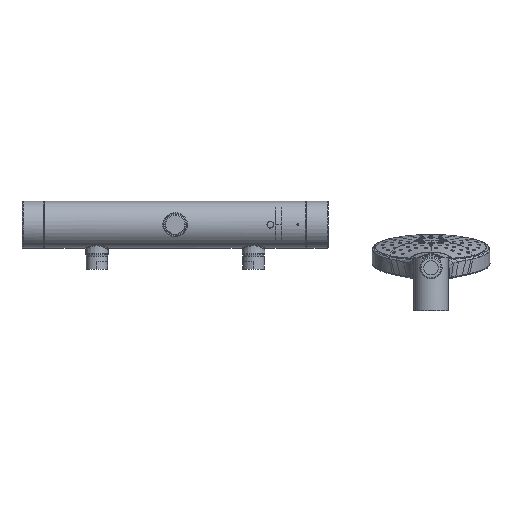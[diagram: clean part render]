
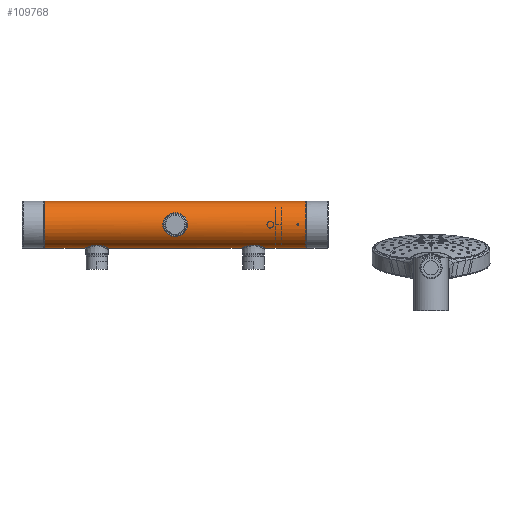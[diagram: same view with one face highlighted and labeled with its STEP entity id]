
A CAD part, front view. The second image highlights one B-rep face of the part: STEP entity #109768.
In plain terms, the highlighted cylindrical face has radius 23 mm (diameter 46 mm), a partial arc.
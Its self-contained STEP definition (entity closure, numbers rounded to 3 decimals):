
#107164=DIRECTION('',(1.,0.,0.));
#107165=VECTOR('',#107164,38.921);
#107166=CARTESIAN_POINT('',(-127.5,0.,-23.));
#107167=LINE('',#107166,#107165);
#107184=CARTESIAN_POINT('',(-64.421,0.,-23.));
#107186=DIRECTION('',(1.,0.,0.));
#107187=VECTOR('',#107186,128.843);
#107188=CARTESIAN_POINT('',(-64.421,0.,-23.));
#107189=LINE('',#107188,#107187);
#107206=CARTESIAN_POINT('',(88.579,0.,-23.));
#107208=DIRECTION('',(1.,0.,0.));
#107209=VECTOR('',#107208,38.921);
#107210=CARTESIAN_POINT('',(88.579,0.,-23.));
#107211=LINE('',#107210,#107209);
#107257=CARTESIAN_POINT('',(127.5,0.,0.));
#107258=DIRECTION('',(-1.,0.,0.));
#107259=DIRECTION('',(0.,0.,-1.));
#107260=AXIS2_PLACEMENT_3D('',#107257,#107258,#107259);
#107262=CARTESIAN_POINT('',(88.579,0.,-23.));
#107263=CARTESIAN_POINT('',(88.598,-0.728,-23.));
#107264=CARTESIAN_POINT('',(88.434,-2.242,
-22.934));
#107265=CARTESIAN_POINT('',(87.644,-4.78,
-22.549));
#107266=CARTESIAN_POINT('',(86.123,-7.174,
-21.888));
#107267=CARTESIAN_POINT('',(84.413,-8.921,
-21.225));
#107268=CARTESIAN_POINT('',(81.938,-10.5,
-20.48));
#107269=CARTESIAN_POINT('',(79.478,-11.363,
-19.999));
#107270=CARTESIAN_POINT('',(76.858,-11.723,
-19.788));
#107271=CARTESIAN_POINT('',(74.113,-11.492,
-19.924));
#107272=CARTESIAN_POINT('',(71.641,-10.76,
-20.34));
#107273=CARTESIAN_POINT('',(69.164,-9.362,
-21.033));
#107274=CARTESIAN_POINT('',(67.123,-7.515,
-21.778));
#107275=CARTESIAN_POINT('',(65.469,-5.04,
-22.498));
#107276=CARTESIAN_POINT('',(64.569,-2.309,
-22.933));
#107277=CARTESIAN_POINT('',(64.395,-0.745,-23.));
#107278=CARTESIAN_POINT('',(64.421,0.,-23.));
#107280=CARTESIAN_POINT('',(-64.421,0.,-23.));
#107281=CARTESIAN_POINT('',(-64.402,-0.728,-23.));
#107282=CARTESIAN_POINT('',(-64.566,-2.242,
-22.934));
#107283=CARTESIAN_POINT('',(-65.356,-4.78,
-22.549));
#107284=CARTESIAN_POINT('',(-66.877,-7.174,
-21.888));
#107285=CARTESIAN_POINT('',(-68.587,-8.921,
-21.225));
#107286=CARTESIAN_POINT('',(-71.062,-10.5,
-20.48));
#107287=CARTESIAN_POINT('',(-73.522,-11.363,
-19.999));
#107288=CARTESIAN_POINT('',(-76.142,-11.723,
-19.788));
#107289=CARTESIAN_POINT('',(-78.887,-11.492,
-19.924));
#107290=CARTESIAN_POINT('',(-81.359,-10.76,
-20.34));
#107291=CARTESIAN_POINT('',(-83.836,-9.362,
-21.033));
#107292=CARTESIAN_POINT('',(-85.877,-7.515,
-21.778));
#107293=CARTESIAN_POINT('',(-87.531,-5.04,
-22.498));
#107294=CARTESIAN_POINT('',(-88.431,-2.309,
-22.933));
#107295=CARTESIAN_POINT('',(-88.605,-0.745,-23.));
#107296=CARTESIAN_POINT('',(-88.579,0.,-23.));
#107298=DIRECTION('',(1.,0.,0.));
#107299=VECTOR('',#107298,255.);
#107300=CARTESIAN_POINT('',(-127.5,0.,23.));
#107301=LINE('',#107300,#107299);
#107302=CARTESIAN_POINT('',(12.07,-23.,0.));
#107303=CARTESIAN_POINT('',(12.089,-23.,
0.728));
#107304=CARTESIAN_POINT('',(11.925,-22.934,
2.242));
#107305=CARTESIAN_POINT('',(11.135,-22.549,
4.779));
#107306=CARTESIAN_POINT('',(9.611,-21.888,
7.175));
#107307=CARTESIAN_POINT('',(7.902,-21.225,
8.92));
#107308=CARTESIAN_POINT('',(5.425,-20.482,
10.497));
#107309=CARTESIAN_POINT('',(2.967,-20.003,
11.357));
#107310=CARTESIAN_POINT('',(0.344,-19.792,
11.716));
#107311=CARTESIAN_POINT('',(-2.4,-19.931,
11.481));
#107312=CARTESIAN_POINT('',(-4.855,-20.344,
10.752));
#107313=CARTESIAN_POINT('',(-7.331,-21.036,
9.355));
#107314=CARTESIAN_POINT('',(-9.368,-21.779,
7.511));
#107315=CARTESIAN_POINT('',(-11.02,-22.498,
5.041));
#107316=CARTESIAN_POINT('',(-11.921,-22.933,
2.313));
#107317=CARTESIAN_POINT('',(-12.096,-23.,
0.747));
#107318=CARTESIAN_POINT('',(-12.07,-23.,0.));
#107320=CARTESIAN_POINT('',(-12.07,-23.,0.));
#107321=CARTESIAN_POINT('',(-12.089,-23.,
-0.728));
#107322=CARTESIAN_POINT('',(-11.925,-22.934,
-2.242));
#107323=CARTESIAN_POINT('',(-11.135,-22.549,
-4.779));
#107324=CARTESIAN_POINT('',(-9.611,-21.888,
-7.175));
#107325=CARTESIAN_POINT('',(-7.902,-21.225,
-8.92));
#107326=CARTESIAN_POINT('',(-5.425,-20.482,
-10.497));
#107327=CARTESIAN_POINT('',(-2.967,-20.003,
-11.357));
#107328=CARTESIAN_POINT('',(-0.344,-19.792,
-11.716));
#107329=CARTESIAN_POINT('',(2.4,-19.931,
-11.481));
#107330=CARTESIAN_POINT('',(4.855,-20.344,
-10.752));
#107331=CARTESIAN_POINT('',(7.331,-21.036,
-9.355));
#107332=CARTESIAN_POINT('',(9.368,-21.779,
-7.511));
#107333=CARTESIAN_POINT('',(11.02,-22.498,
-5.041));
#107334=CARTESIAN_POINT('',(11.921,-22.933,
-2.313));
#107335=CARTESIAN_POINT('',(12.096,-23.,
-0.747));
#107336=CARTESIAN_POINT('',(12.07,-23.,0.));
#107567=CARTESIAN_POINT('',(-127.5,0.,0.));
#107568=DIRECTION('',(1.,0.,0.));
#107569=DIRECTION('',(0.,0.,1.));
#107570=AXIS2_PLACEMENT_3D('',#107567,#107568,#107569);
#109280=CARTESIAN_POINT('',(-127.5,0.,23.));
#109281=VERTEX_POINT('',#109280);
#109282=CARTESIAN_POINT('',(-127.5,0.,-23.));
#109283=VERTEX_POINT('',#109282);
#109284=CARTESIAN_POINT('',(127.5,0.,23.));
#109285=CARTESIAN_POINT('',(127.5,0.,-23.));
#109286=VERTEX_POINT('',#109284);
#109287=VERTEX_POINT('',#109285);
#109288=CARTESIAN_POINT('',(-88.579,0.,-23.));
#109289=VERTEX_POINT('',#109288);
#109290=VERTEX_POINT('',#107184);
#109291=CARTESIAN_POINT('',(64.421,0.,-23.));
#109292=VERTEX_POINT('',#109291);
#109293=VERTEX_POINT('',#107206);
#109306=VERTEX_POINT('',#107302);
#109307=VERTEX_POINT('',#107318);
#109744=CARTESIAN_POINT('',(-128.,0.,0.));
#109745=DIRECTION('',(1.,0.,0.));
#109746=DIRECTION('',(0.,0.,-1.));
#109747=AXIS2_PLACEMENT_3D('',#109744,#109745,#109746);
#109748=CYLINDRICAL_SURFACE('',#109747,23.);
#109749=ORIENTED_EDGE('',*,*,#109738,.F.);
#109750=ORIENTED_EDGE('',*,*,#109688,.F.);
#109752=ORIENTED_EDGE('',*,*,#109751,.T.);
#109753=ORIENTED_EDGE('',*,*,#109684,.F.);
#109755=ORIENTED_EDGE('',*,*,#109754,.T.);
#109756=ORIENTED_EDGE('',*,*,#109681,.F.);
#109758=ORIENTED_EDGE('',*,*,#109757,.F.);
#109759=ORIENTED_EDGE('',*,*,#109677,.T.);
#109760=EDGE_LOOP('',(#109749,#109750,#109752,#109753,#109755,#109756,#109758,
#109759));
#109761=FACE_OUTER_BOUND('',#109760,.F.);
#109763=ORIENTED_EDGE('',*,*,#109762,.T.);
#109765=ORIENTED_EDGE('',*,*,#109764,.T.);
#109766=EDGE_LOOP('',(#109763,#109765));
#109767=FACE_BOUND('',#109766,.F.);
#109768=ADVANCED_FACE('',(#109761,#109767),#109748,.T.);
#107261=CIRCLE('',#107260,23.);
#107279=B_SPLINE_CURVE_WITH_KNOTS('',3,(#107262,#107263,#107264,#107265,#107266,
#107267,#107268,#107269,#107270,#107271,#107272,#107273,#107274,#107275,#107276,
#107277,#107278),.UNSPECIFIED.,.F.,.F.,(4,1,1,1,1,1,1,1,1,1,1,1,1,1,4),(0.,
0.071,0.143,0.214,0.286,
0.357,0.429,0.5,0.571,0.643,
0.714,0.786,0.857,0.929,1.),
.UNSPECIFIED.);
#107297=B_SPLINE_CURVE_WITH_KNOTS('',3,(#107280,#107281,#107282,#107283,#107284,
#107285,#107286,#107287,#107288,#107289,#107290,#107291,#107292,#107293,#107294,
#107295,#107296),.UNSPECIFIED.,.F.,.F.,(4,1,1,1,1,1,1,1,1,1,1,1,1,1,4),(0.,
0.071,0.143,0.214,0.286,
0.357,0.429,0.5,0.571,0.643,
0.714,0.786,0.857,0.929,1.),
.UNSPECIFIED.);
#107319=B_SPLINE_CURVE_WITH_KNOTS('',3,(#107302,#107303,#107304,#107305,#107306,
#107307,#107308,#107309,#107310,#107311,#107312,#107313,#107314,#107315,#107316,
#107317,#107318),.UNSPECIFIED.,.F.,.F.,(4,1,1,1,1,1,1,1,1,1,1,1,1,1,4),(0.,
0.071,0.143,0.214,0.286,
0.357,0.429,0.5,0.571,0.643,
0.714,0.786,0.857,0.929,1.),
.UNSPECIFIED.);
#107337=B_SPLINE_CURVE_WITH_KNOTS('',3,(#107320,#107321,#107322,#107323,#107324,
#107325,#107326,#107327,#107328,#107329,#107330,#107331,#107332,#107333,#107334,
#107335,#107336),.UNSPECIFIED.,.F.,.F.,(4,1,1,1,1,1,1,1,1,1,1,1,1,1,4),(0.,
0.071,0.143,0.214,0.286,
0.357,0.429,0.5,0.571,0.643,
0.714,0.786,0.857,0.929,1.),
.UNSPECIFIED.);
#107571=CIRCLE('',#107570,23.);
#109677=EDGE_CURVE('',#109281,#109286,#107301,.T.);
#109681=EDGE_CURVE('',#109283,#109289,#107167,.T.);
#109684=EDGE_CURVE('',#109290,#109292,#107189,.T.);
#109688=EDGE_CURVE('',#109293,#109287,#107211,.T.);
#109738=EDGE_CURVE('',#109287,#109286,#107261,.T.);
#109751=EDGE_CURVE('',#109293,#109292,#107279,.T.);
#109754=EDGE_CURVE('',#109290,#109289,#107297,.T.);
#109757=EDGE_CURVE('',#109281,#109283,#107571,.T.);
#109762=EDGE_CURVE('',#109306,#109307,#107319,.T.);
#109764=EDGE_CURVE('',#109307,#109306,#107337,.T.);
